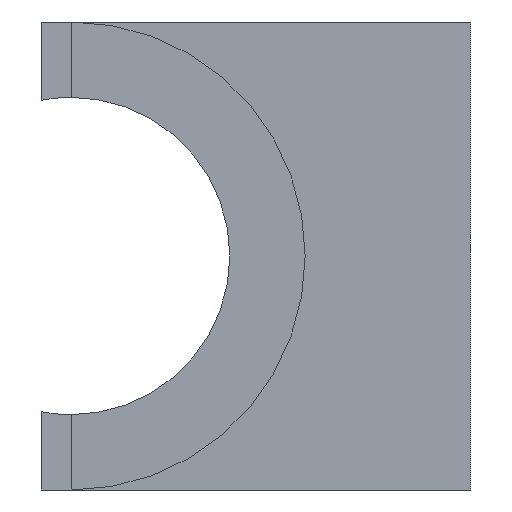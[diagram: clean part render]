
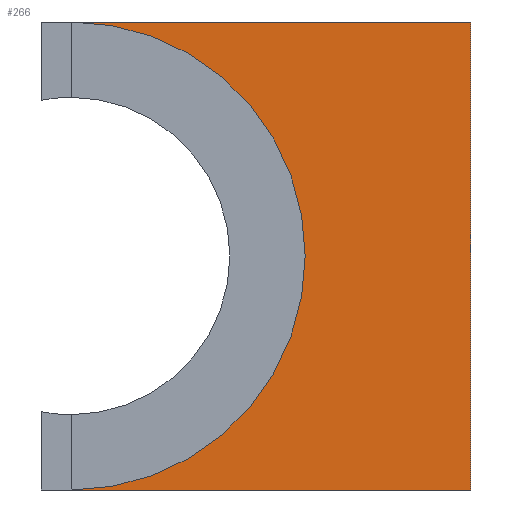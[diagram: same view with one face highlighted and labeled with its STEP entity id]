
A CAD part, left-side view. The second image highlights one B-rep face of the part: STEP entity #266.
In plain terms, the highlighted planar face has unit normal (-1, 0, 0).
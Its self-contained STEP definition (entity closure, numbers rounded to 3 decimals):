
#33 = CYLINDRICAL_SURFACE('',#34,15.525);
#34 = AXIS2_PLACEMENT_3D('',#35,#36,#37);
#35 = CARTESIAN_POINT('',(-18.,0.,0.));
#36 = DIRECTION('',(-1.,-0.,-0.));
#37 = DIRECTION('',(0.,1.,0.));
#58 = VERTEX_POINT('',#59);
#59 = CARTESIAN_POINT('',(-17.,0.,15.525));
#83 = EDGE_CURVE('',#84,#58,#86,.T.);
#84 = VERTEX_POINT('',#85);
#85 = CARTESIAN_POINT('',(-17.,0.,-15.525));
#86 = SURFACE_CURVE('',#87,(#92,#99),.PCURVE_S1.);
#87 = CIRCLE('',#88,15.525);
#88 = AXIS2_PLACEMENT_3D('',#89,#90,#91);
#89 = CARTESIAN_POINT('',(-17.,0.,0.));
#90 = DIRECTION('',(-1.,0.,0.));
#91 = DIRECTION('',(0.,1.,0.));
#92 = PCURVE('',#33,#93);
#93 = DEFINITIONAL_REPRESENTATION('',(#94),#98);
#94 = LINE('',#95,#96);
#95 = CARTESIAN_POINT('',(-6.283,-1.));
#96 = VECTOR('',#97,1.);
#97 = DIRECTION('',(1.,-0.));
#98 = ( GEOMETRIC_REPRESENTATION_CONTEXT(2) 
PARAMETRIC_REPRESENTATION_CONTEXT() REPRESENTATION_CONTEXT('2D SPACE',''
  ) );
#99 = PCURVE('',#100,#105);
#100 = PLANE('',#101);
#101 = AXIS2_PLACEMENT_3D('',#102,#103,#104);
#102 = CARTESIAN_POINT('',(-17.,-26.525,-15.525));
#103 = DIRECTION('',(1.,0.,0.));
#104 = DIRECTION('',(0.,0.,1.));
#105 = DEFINITIONAL_REPRESENTATION('',(#106),#114);
#106 = ( BOUNDED_CURVE() B_SPLINE_CURVE(2,(#107,#108,#109,#110,#111,#112
,#113),.UNSPECIFIED.,.T.,.F.) B_SPLINE_CURVE_WITH_KNOTS((1,2,2,2,2,1),(
    -2.094,0.,2.094,4.189,6.283,
8.378),.UNSPECIFIED.) CURVE() GEOMETRIC_REPRESENTATION_ITEM() 
RATIONAL_B_SPLINE_CURVE((1.,0.5,1.,0.5,1.,0.5,1.)) REPRESENTATION_ITEM(
  '') );
#107 = CARTESIAN_POINT('',(15.525,-42.05));
#108 = CARTESIAN_POINT('',(-11.365,-42.05));
#109 = CARTESIAN_POINT('',(2.08,-18.763));
#110 = CARTESIAN_POINT('',(15.525,4.525));
#111 = CARTESIAN_POINT('',(28.97,-18.763));
#112 = CARTESIAN_POINT('',(42.415,-42.05));
#113 = CARTESIAN_POINT('',(15.525,-42.05));
#114 = ( GEOMETRIC_REPRESENTATION_CONTEXT(2) 
PARAMETRIC_REPRESENTATION_CONTEXT() REPRESENTATION_CONTEXT('2D SPACE',''
  ) );
#266 = ADVANCED_FACE('',(#267),#100,.F.);
#267 = FACE_BOUND('',#268,.F.);
#268 = EDGE_LOOP('',(#269,#297,#325,#351));
#269 = ORIENTED_EDGE('',*,*,#270,.F.);
#270 = EDGE_CURVE('',#271,#58,#273,.T.);
#271 = VERTEX_POINT('',#272);
#272 = CARTESIAN_POINT('',(-17.,-26.525,15.525));
#273 = SURFACE_CURVE('',#274,(#278,#285),.PCURVE_S1.);
#274 = LINE('',#275,#276);
#275 = CARTESIAN_POINT('',(-17.,-26.525,15.525));
#276 = VECTOR('',#277,1.);
#277 = DIRECTION('',(0.,1.,0.));
#278 = PCURVE('',#100,#279);
#279 = DEFINITIONAL_REPRESENTATION('',(#280),#284);
#280 = LINE('',#281,#282);
#281 = CARTESIAN_POINT('',(31.05,0.));
#282 = VECTOR('',#283,1.);
#283 = DIRECTION('',(0.,-1.));
#284 = ( GEOMETRIC_REPRESENTATION_CONTEXT(2) 
PARAMETRIC_REPRESENTATION_CONTEXT() REPRESENTATION_CONTEXT('2D SPACE',''
  ) );
#285 = PCURVE('',#286,#291);
#286 = PLANE('',#287);
#287 = AXIS2_PLACEMENT_3D('',#288,#289,#290);
#288 = CARTESIAN_POINT('',(-17.,-26.525,15.525));
#289 = DIRECTION('',(0.,0.,1.));
#290 = DIRECTION('',(1.,0.,0.));
#291 = DEFINITIONAL_REPRESENTATION('',(#292),#296);
#292 = LINE('',#293,#294);
#293 = CARTESIAN_POINT('',(0.,0.));
#294 = VECTOR('',#295,1.);
#295 = DIRECTION('',(0.,1.));
#296 = ( GEOMETRIC_REPRESENTATION_CONTEXT(2) 
PARAMETRIC_REPRESENTATION_CONTEXT() REPRESENTATION_CONTEXT('2D SPACE',''
  ) );
#297 = ORIENTED_EDGE('',*,*,#298,.F.);
#298 = EDGE_CURVE('',#299,#271,#301,.T.);
#299 = VERTEX_POINT('',#300);
#300 = CARTESIAN_POINT('',(-17.,-26.525,-15.525));
#301 = SURFACE_CURVE('',#302,(#306,#313),.PCURVE_S1.);
#302 = LINE('',#303,#304);
#303 = CARTESIAN_POINT('',(-17.,-26.525,-15.525));
#304 = VECTOR('',#305,1.);
#305 = DIRECTION('',(0.,0.,1.));
#306 = PCURVE('',#100,#307);
#307 = DEFINITIONAL_REPRESENTATION('',(#308),#312);
#308 = LINE('',#309,#310);
#309 = CARTESIAN_POINT('',(0.,0.));
#310 = VECTOR('',#311,1.);
#311 = DIRECTION('',(1.,0.));
#312 = ( GEOMETRIC_REPRESENTATION_CONTEXT(2) 
PARAMETRIC_REPRESENTATION_CONTEXT() REPRESENTATION_CONTEXT('2D SPACE',''
  ) );
#313 = PCURVE('',#314,#319);
#314 = PLANE('',#315);
#315 = AXIS2_PLACEMENT_3D('',#316,#317,#318);
#316 = CARTESIAN_POINT('',(-17.,-26.525,-15.525));
#317 = DIRECTION('',(0.,1.,0.));
#318 = DIRECTION('',(0.,0.,1.));
#319 = DEFINITIONAL_REPRESENTATION('',(#320),#324);
#320 = LINE('',#321,#322);
#321 = CARTESIAN_POINT('',(0.,0.));
#322 = VECTOR('',#323,1.);
#323 = DIRECTION('',(1.,0.));
#324 = ( GEOMETRIC_REPRESENTATION_CONTEXT(2) 
PARAMETRIC_REPRESENTATION_CONTEXT() REPRESENTATION_CONTEXT('2D SPACE',''
  ) );
#325 = ORIENTED_EDGE('',*,*,#326,.T.);
#326 = EDGE_CURVE('',#299,#84,#327,.T.);
#327 = SURFACE_CURVE('',#328,(#332,#339),.PCURVE_S1.);
#328 = LINE('',#329,#330);
#329 = CARTESIAN_POINT('',(-17.,-26.525,-15.525));
#330 = VECTOR('',#331,1.);
#331 = DIRECTION('',(0.,1.,0.));
#332 = PCURVE('',#100,#333);
#333 = DEFINITIONAL_REPRESENTATION('',(#334),#338);
#334 = LINE('',#335,#336);
#335 = CARTESIAN_POINT('',(0.,0.));
#336 = VECTOR('',#337,1.);
#337 = DIRECTION('',(0.,-1.));
#338 = ( GEOMETRIC_REPRESENTATION_CONTEXT(2) 
PARAMETRIC_REPRESENTATION_CONTEXT() REPRESENTATION_CONTEXT('2D SPACE',''
  ) );
#339 = PCURVE('',#340,#345);
#340 = PLANE('',#341);
#341 = AXIS2_PLACEMENT_3D('',#342,#343,#344);
#342 = CARTESIAN_POINT('',(-17.,-26.525,-15.525));
#343 = DIRECTION('',(0.,0.,1.));
#344 = DIRECTION('',(1.,0.,0.));
#345 = DEFINITIONAL_REPRESENTATION('',(#346),#350);
#346 = LINE('',#347,#348);
#347 = CARTESIAN_POINT('',(0.,0.));
#348 = VECTOR('',#349,1.);
#349 = DIRECTION('',(0.,1.));
#350 = ( GEOMETRIC_REPRESENTATION_CONTEXT(2) 
PARAMETRIC_REPRESENTATION_CONTEXT() REPRESENTATION_CONTEXT('2D SPACE',''
  ) );
#351 = ORIENTED_EDGE('',*,*,#83,.T.);
